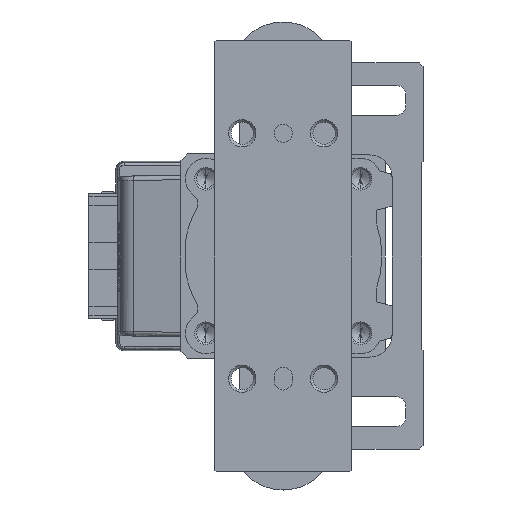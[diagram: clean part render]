
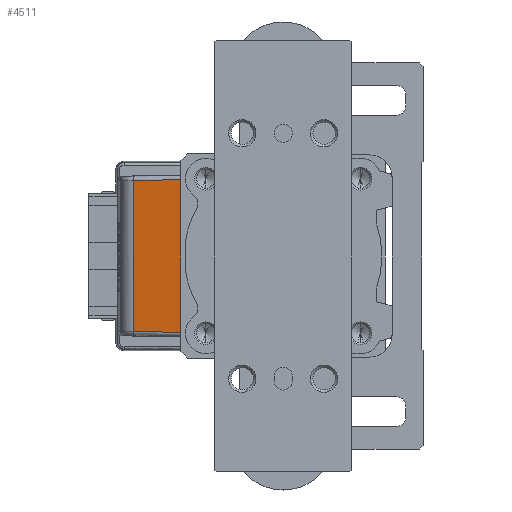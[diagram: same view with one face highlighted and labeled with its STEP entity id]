
A CAD part, left-side view. The second image highlights one B-rep face of the part: STEP entity #4511.
In plain terms, the highlighted planar face has unit normal (-0.985, 0.174, 0) as drawn and (0, 0.174, 0.985) by its records, which use the part's own axes.
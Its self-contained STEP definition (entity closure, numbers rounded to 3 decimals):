
#1485 = AXIS2_PLACEMENT_3D ( 'NONE', #27783, #21787, #14736 ) ;
#1814 = CARTESIAN_POINT ( 'NONE',  ( 0., 21., -38.277 ) ) ;
#2685 = CARTESIAN_POINT ( 'NONE',  ( -16.617, 32.922, -40.379 ) ) ;
#3899 = CARTESIAN_POINT ( 'NONE',  ( -17.568, 32.922, -40.379 ) ) ;
#4511 = ADVANCED_FACE ( 'NONE', ( #37085 ), #36881, .F. ) ;
#4826 = VERTEX_POINT ( 'NONE', #24966 ) ;
#7351 = VECTOR ( 'NONE', #11671, 1000. ) ;
#10488 = LINE ( 'NONE', #20358, #22699 ) ;
#11671 = DIRECTION ( 'NONE',  ( 1., 0., 0. ) ) ;
#12159 = ORIENTED_EDGE ( 'NONE', *, *, #42136, .T. ) ;
#12744 = CARTESIAN_POINT ( 'NONE',  ( 16.825, 21., -38.277 ) ) ;
#13544 = DIRECTION ( 'NONE',  ( -0.017, -0.985, 0.174 ) ) ;
#14038 = LINE ( 'NONE', #3899, #41206 ) ;
#14736 = DIRECTION ( 'NONE',  ( 1., 0., 0. ) ) ;
#16843 = CARTESIAN_POINT ( 'NONE',  ( 16.617, 32.905, -40.376 ) ) ;
#17030 = DIRECTION ( 'NONE',  ( -1., 0., 0. ) ) ;
#18908 = VERTEX_POINT ( 'NONE', #2685 ) ;
#19386 = VECTOR ( 'NONE', #36829, 1000. ) ;
#19585 = EDGE_LOOP ( 'NONE', ( #12159, #30817, #41570, #26682 ) ) ;
#20358 = CARTESIAN_POINT ( 'NONE',  ( -16.825, 20.983, -38.274 ) ) ;
#21410 = EDGE_CURVE ( 'NONE', #18908, #33363, #10488, .T. ) ;
#21787 = DIRECTION ( 'NONE',  ( 0., -0.174, -0.985 ) ) ;
#22699 = VECTOR ( 'NONE', #13544, 1000. ) ;
#24966 = CARTESIAN_POINT ( 'NONE',  ( 16.617, 32.922, -40.379 ) ) ;
#26682 = ORIENTED_EDGE ( 'NONE', *, *, #37477, .T. ) ;
#27783 = CARTESIAN_POINT ( 'NONE',  ( 0., 21.26, -38.323 ) ) ;
#30817 = ORIENTED_EDGE ( 'NONE', *, *, #21410, .T. ) ;
#33363 = VERTEX_POINT ( 'NONE', #33378 ) ;
#33378 = CARTESIAN_POINT ( 'NONE',  ( -16.825, 21., -38.277 ) ) ;
#36829 = DIRECTION ( 'NONE',  ( -0.017, 0.985, -0.174 ) ) ;
#36881 = PLANE ( 'NONE',  #1485 ) ;
#37085 = FACE_OUTER_BOUND ( 'NONE', #19585, .T. ) ;
#37477 = EDGE_CURVE ( 'NONE', #39776, #4826, #40308, .T. ) ;
#39776 = VERTEX_POINT ( 'NONE', #12744 ) ;
#40308 = LINE ( 'NONE', #16843, #19386 ) ;
#40767 = LINE ( 'NONE', #1814, #7351 ) ;
#40890 = EDGE_CURVE ( 'NONE', #33363, #39776, #40767, .T. ) ;
#41206 = VECTOR ( 'NONE', #17030, 1000. ) ;
#41570 = ORIENTED_EDGE ( 'NONE', *, *, #40890, .T. ) ;
#42136 = EDGE_CURVE ( 'NONE', #4826, #18908, #14038, .T. ) ;
